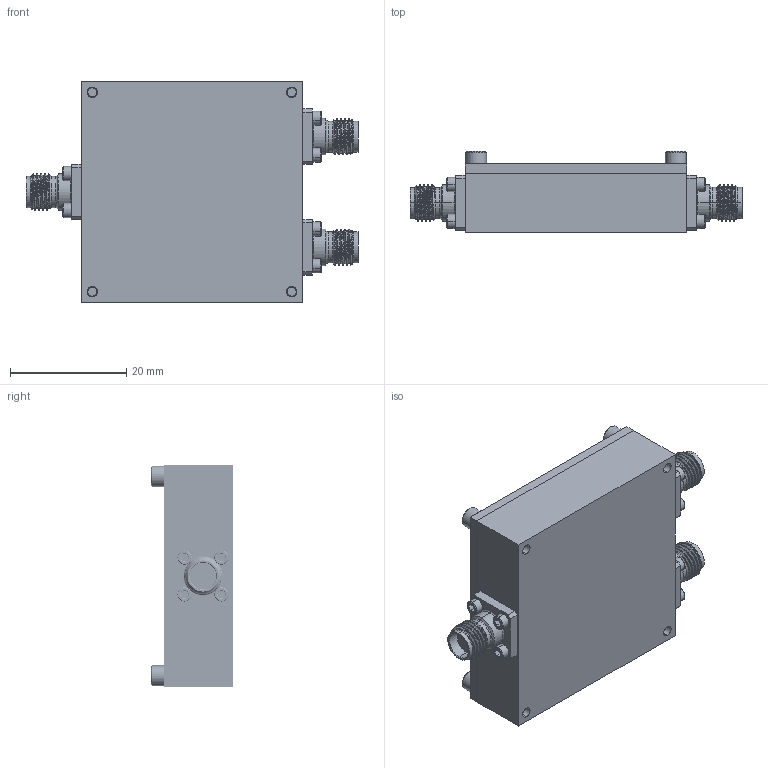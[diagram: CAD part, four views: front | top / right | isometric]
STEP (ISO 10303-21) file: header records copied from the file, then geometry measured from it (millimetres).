
FILE_DESCRIPTION (( 'STEP AP214' ), '1' );
FILE_NAME ('HL9404-JJJ.STEP', '2023-03-04T23:05:32', ( '' ), ( '' ), 'SwSTEP 2.0', 'SolidWorks 2023', '' );
FILE_SCHEMA (( 'AUTOMOTIVE_DESIGN' ));
Length unit declared in the file: millimetre
Products named in the file (8): 2.92mm J 4H .375SQ; 0-80x1-8_Socket Head Cap Screw_92196A052_18-8 Stainless Steel Socket Head Screw_92196A052; 100118; 2-56 x 3-16 92196A076_18-8 Stainless Steel Socket Head Screw_92196A076; 2.92mm J 4H .375SQ.STP; HL9404-JJJ; 100006; 83K51920 HSG 2.92 J 4H .375SQ. RevF.STP
Assembly tree (23 placements, depth 4):
  HL9404-JJJ
    100118
    100006
    2.92mm J 4H .375SQ  x3
      2.92mm J 4H .375SQ.STP
        83K51920 HSG 2.92 J 4H .375SQ. RevF.STP
    0-80x1-8_Socket Head Cap Screw_92196A052_18-8 Stainless Steel Socket Head Screw_92196A052  x12
    2-56 x 3-16 92196A076_18-8 Stainless Steel Socket Head Screw_92196A076  x4
Bounding box: 57.07 x 13.94 x 38.1 mm (x, y, z)
Volume: 11595.3 mm3; surface area: 11153.1 mm2
Topology: 21 solids, 21 shells, 1138 faces, 2769 edges, 1709 vertices
Faces by surface type: cylinder 488, cone 327, plane 207, bspline 66, torus 50
Entity records: 14818 total; most frequent: CARTESIAN_POINT 7612, DIRECTION 1400, ORIENTED_EDGE 1384, EDGE_CURVE 692, AXIS2_PLACEMENT_3D 560, VERTEX_POINT 431, EDGE_LOOP 341, ADVANCED_FACE 285
